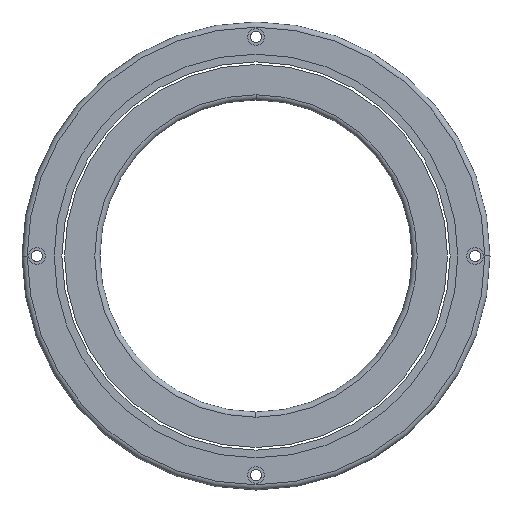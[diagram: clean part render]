
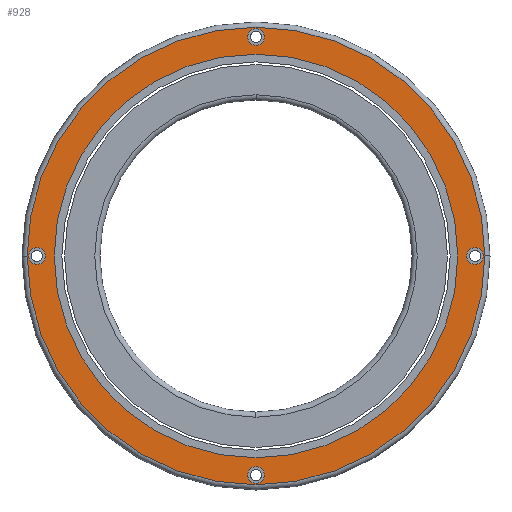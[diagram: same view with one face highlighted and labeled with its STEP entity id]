
A CAD part, front view. The second image highlights one B-rep face of the part: STEP entity #928.
In plain terms, the highlighted planar face has unit normal (0, -1, 0).
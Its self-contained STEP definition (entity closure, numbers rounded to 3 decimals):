
#43=CARTESIAN_POINT('',(0.,0.,0.));
#44=DIRECTION('',(0.,-1.,0.));
#45=DIRECTION('',(-1.,0.,0.));
#46=AXIS2_PLACEMENT_3D('',#43,#44,#45);
#48=CARTESIAN_POINT('',(0.,0.,0.));
#49=DIRECTION('',(0.,1.,0.));
#50=DIRECTION('',(-1.,0.,0.));
#51=AXIS2_PLACEMENT_3D('',#48,#49,#50);
#53=CARTESIAN_POINT('',(-84.25,0.,0.));
#54=DIRECTION('',(0.,1.,0.));
#55=DIRECTION('',(1.,0.,0.));
#56=AXIS2_PLACEMENT_3D('',#53,#54,#55);
#58=CARTESIAN_POINT('',(-84.25,0.,0.));
#59=DIRECTION('',(0.,1.,0.));
#60=DIRECTION('',(-1.,0.,0.));
#61=AXIS2_PLACEMENT_3D('',#58,#59,#60);
#63=CARTESIAN_POINT('',(0.,0.,84.25));
#64=DIRECTION('',(0.,1.,0.));
#65=DIRECTION('',(0.,0.,-1.));
#66=AXIS2_PLACEMENT_3D('',#63,#64,#65);
#68=CARTESIAN_POINT('',(0.,0.,84.25));
#69=DIRECTION('',(0.,1.,0.));
#70=DIRECTION('',(0.,0.,1.));
#71=AXIS2_PLACEMENT_3D('',#68,#69,#70);
#73=CARTESIAN_POINT('',(84.25,0.,0.));
#74=DIRECTION('',(0.,1.,0.));
#75=DIRECTION('',(-1.,0.,0.));
#76=AXIS2_PLACEMENT_3D('',#73,#74,#75);
#78=CARTESIAN_POINT('',(84.25,0.,0.));
#79=DIRECTION('',(0.,1.,0.));
#80=DIRECTION('',(1.,0.,0.));
#81=AXIS2_PLACEMENT_3D('',#78,#79,#80);
#83=CARTESIAN_POINT('',(0.,0.,-84.25));
#84=DIRECTION('',(0.,1.,0.));
#85=DIRECTION('',(0.,0.,1.));
#86=AXIS2_PLACEMENT_3D('',#83,#84,#85);
#88=CARTESIAN_POINT('',(0.,0.,-84.25));
#89=DIRECTION('',(0.,1.,0.));
#90=DIRECTION('',(0.,0.,-1.));
#91=AXIS2_PLACEMENT_3D('',#88,#89,#90);
#93=CARTESIAN_POINT('',(0.,0.,0.));
#94=DIRECTION('',(0.,1.,0.));
#95=DIRECTION('',(1.,0.,0.));
#96=AXIS2_PLACEMENT_3D('',#93,#94,#95);
#98=CARTESIAN_POINT('',(0.,0.,0.));
#99=DIRECTION('',(0.,1.,0.));
#100=DIRECTION('',(-1.,0.,0.));
#101=AXIS2_PLACEMENT_3D('',#98,#99,#100);
#751=CARTESIAN_POINT('',(-81.,0.,0.));
#752=VERTEX_POINT('',#751);
#753=CARTESIAN_POINT('',(-87.5,0.,0.));
#754=VERTEX_POINT('',#753);
#763=CARTESIAN_POINT('',(0.,0.,81.));
#764=VERTEX_POINT('',#763);
#765=CARTESIAN_POINT('',(0.,0.,87.5));
#766=VERTEX_POINT('',#765);
#775=CARTESIAN_POINT('',(81.,0.,0.));
#776=VERTEX_POINT('',#775);
#777=CARTESIAN_POINT('',(87.5,0.,0.));
#778=VERTEX_POINT('',#777);
#787=CARTESIAN_POINT('',(0.,0.,-81.));
#788=VERTEX_POINT('',#787);
#789=CARTESIAN_POINT('',(0.,0.,-87.5));
#790=VERTEX_POINT('',#789);
#808=CARTESIAN_POINT('',(-77.6,0.,0.));
#810=VERTEX_POINT('',#808);
#812=CARTESIAN_POINT('',(77.6,0.,0.));
#814=VERTEX_POINT('',#812);
#839=CARTESIAN_POINT('',(88.,0.,0.));
#840=CARTESIAN_POINT('',(-88.,0.,0.));
#841=VERTEX_POINT('',#839);
#842=VERTEX_POINT('',#840);
#889=CARTESIAN_POINT('',(0.,0.,0.));
#890=DIRECTION('',(0.,1.,0.));
#891=DIRECTION('',(1.,0.,0.));
#892=AXIS2_PLACEMENT_3D('',#889,#890,#891);
#893=PLANE('',#892);
#895=ORIENTED_EDGE('',*,*,#894,.T.);
#897=ORIENTED_EDGE('',*,*,#896,.T.);
#898=EDGE_LOOP('',(#895,#897));
#899=FACE_OUTER_BOUND('',#898,.F.);
#900=ORIENTED_EDGE('',*,*,#868,.F.);
#901=ORIENTED_EDGE('',*,*,#884,.F.);
#902=EDGE_LOOP('',(#900,#901));
#903=FACE_BOUND('',#902,.F.);
#905=ORIENTED_EDGE('',*,*,#904,.F.);
#907=ORIENTED_EDGE('',*,*,#906,.F.);
#908=EDGE_LOOP('',(#905,#907));
#909=FACE_BOUND('',#908,.F.);
#911=ORIENTED_EDGE('',*,*,#910,.F.);
#913=ORIENTED_EDGE('',*,*,#912,.F.);
#914=EDGE_LOOP('',(#911,#913));
#915=FACE_BOUND('',#914,.F.);
#917=ORIENTED_EDGE('',*,*,#916,.F.);
#919=ORIENTED_EDGE('',*,*,#918,.F.);
#920=EDGE_LOOP('',(#917,#919));
#921=FACE_BOUND('',#920,.F.);
#923=ORIENTED_EDGE('',*,*,#922,.T.);
#925=ORIENTED_EDGE('',*,*,#924,.F.);
#926=EDGE_LOOP('',(#923,#925));
#927=FACE_BOUND('',#926,.F.);
#47=CIRCLE('',#46,77.6);
#52=CIRCLE('',#51,77.6);
#57=CIRCLE('',#56,3.25);
#62=CIRCLE('',#61,3.25);
#67=CIRCLE('',#66,3.25);
#72=CIRCLE('',#71,3.25);
#77=CIRCLE('',#76,3.25);
#82=CIRCLE('',#81,3.25);
#87=CIRCLE('',#86,3.25);
#92=CIRCLE('',#91,3.25);
#97=CIRCLE('',#96,88.);
#102=CIRCLE('',#101,88.);
#868=EDGE_CURVE('',#752,#754,#57,.T.);
#884=EDGE_CURVE('',#754,#752,#62,.T.);
#894=EDGE_CURVE('',#841,#842,#97,.T.);
#896=EDGE_CURVE('',#842,#841,#102,.T.);
#904=EDGE_CURVE('',#764,#766,#67,.T.);
#906=EDGE_CURVE('',#766,#764,#72,.T.);
#910=EDGE_CURVE('',#776,#778,#77,.T.);
#912=EDGE_CURVE('',#778,#776,#82,.T.);
#916=EDGE_CURVE('',#788,#790,#87,.T.);
#918=EDGE_CURVE('',#790,#788,#92,.T.);
#922=EDGE_CURVE('',#810,#814,#47,.T.);
#924=EDGE_CURVE('',#810,#814,#52,.T.);
#928=ADVANCED_FACE('',(#899,#903,#909,#915,#921,#927),#893,.F.);
